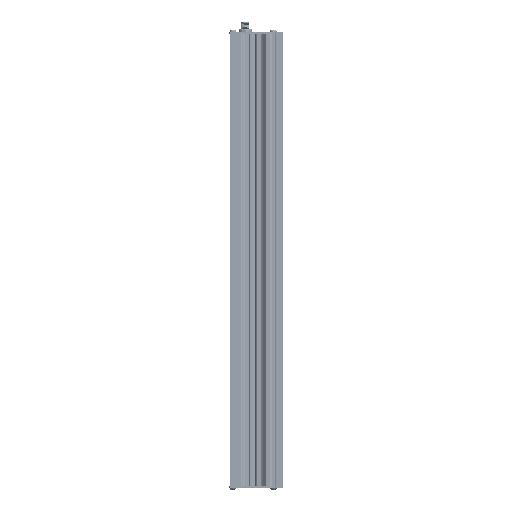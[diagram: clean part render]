
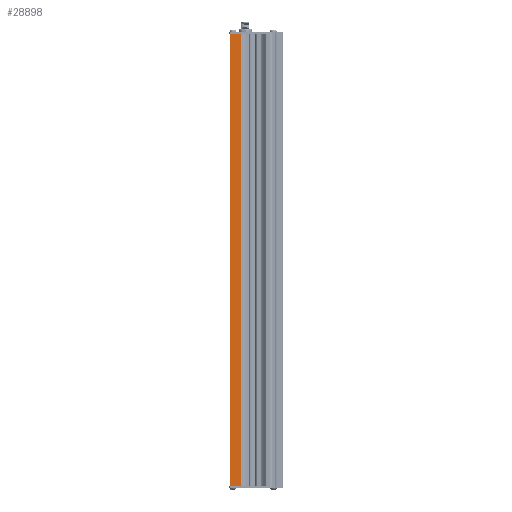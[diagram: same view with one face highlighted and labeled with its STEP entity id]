
A CAD part, left-side view. The second image highlights one B-rep face of the part: STEP entity #28898.
In plain terms, the highlighted planar face has unit normal (-1, 0, 0).
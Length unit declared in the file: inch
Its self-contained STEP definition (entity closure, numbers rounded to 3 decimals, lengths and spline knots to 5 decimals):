
#882 = PLANE ( 'NONE',  #16501 ) ;
#2744 = LINE ( 'NONE', #29075, #5819 ) ;
#3378 = DIRECTION ( 'NONE',  ( 0., 1., 0. ) ) ;
#4974 = DIRECTION ( 'NONE',  ( 0., 0., -1. ) ) ;
#5819 = VECTOR ( 'NONE', #29279, 39.37008 ) ;
#6407 = FACE_OUTER_BOUND ( 'NONE', #7708, .T. ) ;
#7708 = EDGE_LOOP ( 'NONE', ( #17444, #15556, #32402, #29329 ) ) ;
#7746 = CARTESIAN_POINT ( 'NONE',  ( -1.76811, 1.342, 12. ) ) ;
#9642 = LINE ( 'NONE', #27394, #35982 ) ;
#9987 = EDGE_CURVE ( 'NONE', #12799, #32349, #16770, .T. ) ;
#11492 = LINE ( 'NONE', #37633, #12044 ) ;
#11519 = VECTOR ( 'NONE', #16599, 39.37008 ) ;
#12044 = VECTOR ( 'NONE', #4974, 39.37008 ) ;
#12549 = CARTESIAN_POINT ( 'NONE',  ( -1.76811, 1.342, 12. ) ) ;
#12799 = VERTEX_POINT ( 'NONE', #36547 ) ;
#14331 = VERTEX_POINT ( 'NONE', #15656 ) ;
#15556 = ORIENTED_EDGE ( 'NONE', *, *, #9987, .F. ) ;
#15656 = CARTESIAN_POINT ( 'NONE',  ( -1.76811, 1.342, -12. ) ) ;
#16501 = AXIS2_PLACEMENT_3D ( 'NONE', #12549, #29508, #3378 ) ;
#16599 = DIRECTION ( 'NONE',  ( 0., 0., -1. ) ) ;
#16770 = LINE ( 'NONE', #19083, #11519 ) ;
#17444 = ORIENTED_EDGE ( 'NONE', *, *, #21909, .T. ) ;
#19083 = CARTESIAN_POINT ( 'NONE',  ( -1.76811, 0.75971, 12. ) ) ;
#21123 = DIRECTION ( 'NONE',  ( 0., -1., 0. ) ) ;
#21909 = EDGE_CURVE ( 'NONE', #14331, #32349, #2744, .T. ) ;
#22659 = EDGE_CURVE ( 'NONE', #35363, #14331, #11492, .T. ) ;
#27394 = CARTESIAN_POINT ( 'NONE',  ( -1.76811, 1.342, 12. ) ) ;
#28898 = ADVANCED_FACE ( 'NONE', ( #6407 ), #882, .F. ) ;
#29075 = CARTESIAN_POINT ( 'NONE',  ( -1.76811, 1.342, -12. ) ) ;
#29279 = DIRECTION ( 'NONE',  ( 0., -1., 0. ) ) ;
#29329 = ORIENTED_EDGE ( 'NONE', *, *, #22659, .T. ) ;
#29508 = DIRECTION ( 'NONE',  ( 1., 0., 0. ) ) ;
#30416 = EDGE_CURVE ( 'NONE', #35363, #12799, #9642, .T. ) ;
#32349 = VERTEX_POINT ( 'NONE', #35298 ) ;
#32402 = ORIENTED_EDGE ( 'NONE', *, *, #30416, .F. ) ;
#35298 = CARTESIAN_POINT ( 'NONE',  ( -1.76811, 0.75971, -12. ) ) ;
#35363 = VERTEX_POINT ( 'NONE', #7746 ) ;
#35982 = VECTOR ( 'NONE', #21123, 39.37008 ) ;
#36547 = CARTESIAN_POINT ( 'NONE',  ( -1.76811, 0.75971, 12. ) ) ;
#37633 = CARTESIAN_POINT ( 'NONE',  ( -1.76811, 1.342, 12. ) ) ;
